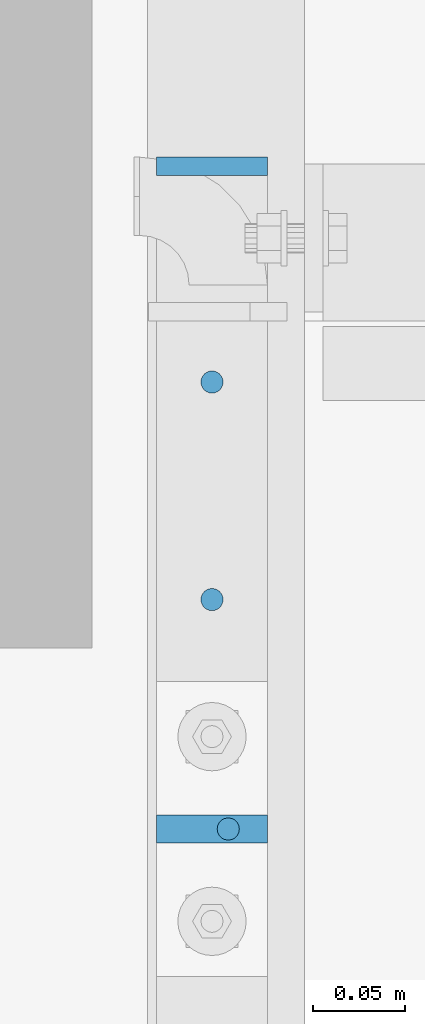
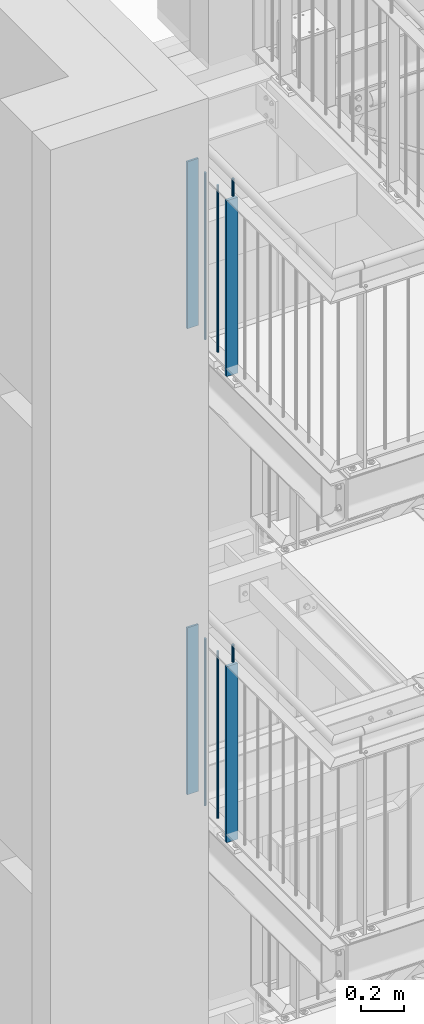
# One storey, part 14 of 831: 10 columns.
"""IFC2X3 building model written with IfcOpenShell, lengths in millimetres."""

from ifc_helpers import new_model, entity, si_unit, converted_unit, frame, origin, origin_with_axes, origin_2d, place, context, project, spatial, rectangle, circle, extrude, clip, halfspace, material, element, save


model = new_model("IFC2X3")

# Units and contexts
model_context = context("Model", 3, precision=1e-09, world=origin_with_axes())
ifc_project = project(units=[si_unit("LENGTHUNIT", "METRE", prefix="MILLI"), si_unit("AREAUNIT", "SQUARE_METRE"), si_unit("VOLUMEUNIT", "CUBIC_METRE"), converted_unit("PLANEANGLEUNIT", "DEGREE", entity("IfcPlaneAngleMeasure", 0.01745329), si_unit("PLANEANGLEUNIT", "RADIAN"), dimensions=[0, 0, 0, 0, 0, 0, 0])], contexts=[model_context])

# Site, building, storey
site_placement = place(None, origin_with_axes())
site = spatial("IfcSite", under=ifc_project, at=site_placement, Name="Site", CompositionType="ELEMENT")
building_placement = place(site_placement, origin_with_axes())
building = spatial("IfcBuilding", under=site, at=building_placement, Name="Struktur 1", CompositionType="ELEMENT")
storey_placement = place(building_placement, origin_with_axes())
storey = spatial("IfcBuildingStorey", under=building, at=storey_placement, Name="Default Storey", CompositionType="ELEMENT", Elevation=0.0)

# Columns
ifc_material = material(Name="S235JR")
column_1_placement = place(None, frame((3271.713402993, 5461.738971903, 16253.723292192), z_axis=(0.0, 0.0, 1.0), x_axis=(0.0, 1.0, 0.0)))
element("IfcColumn", 1, at=column_1_placement, inside=storey, material=ifc_material, Name="Railing_Post_Landing#14", ObjectType="Railing_Post_Landing#14", context=model_context, shape_type="Clipping", body=[
    clip(clip(extrude(rectangle(XDim=15.0, YDim=60.0, at=origin_2d()), origin(), (0.0, 0.0, -1.0), 1070.646584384), halfspace(frame((-5461.738971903, 3271.713402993, -1019.722292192), z_axis=(0.0, 0.0, 1.0), x_axis=(0.0, -1.0, 0.0)), True)), halfspace(frame((-5461.738971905, 3271.713402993, -30.924292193), z_axis=(0.0, 0.0, -1.0), x_axis=(0.0, 1.0, 0.0)), True)),
])
column_2_placement = place(None, frame((3280.513402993, 5461.738971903, 16341.285281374), z_axis=(0.0, 0.0, 1.0), x_axis=(1.0, 0.0, 0.0)))
element("IfcColumn", 2, at=column_2_placement, inside=storey, material=ifc_material, Name="Bar#14", ObjectType="Bar#14", context=model_context, shape_type="Clipping", body=[
    clip(clip(extrude(circle(Radius=6.0, at=origin_2d()), origin(), (0.0, 0.0, -1.0), 116.970562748), halfspace(frame((-3280.513402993, -5461.738971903, -8.486281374), z_axis=(0.0, 0.0, -1.0), x_axis=(-1.0, 0.0, 0.0)), True)), halfspace(frame((-3280.513402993, -5461.738971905, -108.484281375), z_axis=(0.0, 0.0, 1.0), x_axis=(1.0, 0.0, 0.0)), True)),
])
column_3_placement = place(None, frame((3271.713402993, 5461.738971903, 18873.723292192), z_axis=(0.0, 0.0, 1.0), x_axis=(0.0, 1.0, 0.0)))
element("IfcColumn", 3, at=column_3_placement, inside=storey, material=ifc_material, Name="Railing_Post_Landing#14", ObjectType="Railing_Post_Landing#14", context=model_context, shape_type="Clipping", body=[
    clip(clip(extrude(rectangle(XDim=15.0, YDim=60.0, at=origin_2d()), origin(), (0.0, 0.0, -1.0), 1070.646584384), halfspace(frame((-5461.738971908, 3271.713402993, -1019.722292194), z_axis=(0.0, 0.0, 1.0), x_axis=(0.0, -1.0, 0.0)), True)), halfspace(frame((-5461.738971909, 3271.713402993, -30.924292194), z_axis=(0.0, 0.0, -1.0), x_axis=(0.0, 1.0, 0.0)), True)),
])
column_4_placement = place(None, frame((3280.513402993, 5461.738971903, 18961.285281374), z_axis=(0.0, 0.0, 1.0), x_axis=(1.0, 0.0, 0.0)))
element("IfcColumn", 4, at=column_4_placement, inside=storey, material=ifc_material, Name="Bar#14", ObjectType="Bar#14", context=model_context, shape_type="Clipping", body=[
    clip(clip(extrude(circle(Radius=6.0, at=origin_2d()), origin(), (0.0, 0.0, -1.0), 116.970562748), halfspace(frame((-3280.513402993, -5461.738971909, -8.486281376), z_axis=(0.0, 0.0, -1.0), x_axis=(-1.0, 0.0, 0.0)), True)), halfspace(frame((-3280.513402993, -5461.738971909, -108.484281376), z_axis=(0.0, 0.0, 1.0), x_axis=(1.0, 0.0, 0.0)), True)),
])
column_5_placement = place(None, frame((3271.713402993, 5585.988971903, 18856.285281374), z_axis=(0.0, 0.0, -1.0), x_axis=(0.0, -1.0, 0.0)))
element("IfcColumn", 5, at=column_5_placement, inside=storey, material=ifc_material, Name="Railing_Picket_Landing#97", ObjectType="Railing_Picket_Landing#97", context=model_context, shape_type="Clipping", body=[
    clip(clip(extrude(circle(Radius=6.0, at=origin_2d()), origin(), (0.0, 0.0, 1.0), 965.770562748), halfspace(frame((5585.988971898, 3271.713402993, 13.486281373), z_axis=(0.0, 0.0, 1.0), x_axis=(0.0, 1.0, 0.0)), True)), halfspace(frame((5585.988971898, 3271.713402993, 952.284281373), z_axis=(0.0, 0.0, -1.0), x_axis=(0.0, -1.0, 0.0)), True)),
])
column_6_placement = place(None, frame((3271.713402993, 5703.786135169, 18856.285281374), z_axis=(0.0, 0.0, -1.0), x_axis=(0.0, -1.0, 0.0)))
element("IfcColumn", 6, at=column_6_placement, inside=storey, material=ifc_material, Name="Railing_Picket_Landing#96", ObjectType="Railing_Picket_Landing#96", context=model_context, shape_type="Clipping", body=[
    clip(clip(extrude(circle(Radius=6.0, at=origin_2d()), origin(), (0.0, 0.0, 1.0), 965.770562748), halfspace(frame((5703.786135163, 3271.713402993, 13.486281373), z_axis=(0.0, 0.0, 1.0), x_axis=(0.0, 1.0, 0.0)), True)), halfspace(frame((5703.786135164, 3271.713402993, 952.284281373), z_axis=(0.0, 0.0, -1.0), x_axis=(0.0, -1.0, 0.0)), True)),
])
column_7_placement = place(None, frame((3271.713402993, 5820.583298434, 17904.0), z_axis=(0.0, 0.0, -1.0), x_axis=(0.0, 1.0, 0.0)))
element("IfcColumn", 7, at=column_7_placement, inside=storey, material=ifc_material, Name="Railing_Kneerail_Landing#22", ObjectType="Railing_Kneerail_Landing#22", context=model_context, shape_type="SweptSolid", body=[
    extrude(rectangle(XDim=10.0, YDim=60.0, at=origin_2d()), origin(), (0.0, 0.0, -1.0), 938.8),
])
column_8_placement = place(None, frame((3271.713402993, 5585.988971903, 16236.285281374), z_axis=(0.0, 0.0, -1.0), x_axis=(0.0, -1.0, 0.0)))
element("IfcColumn", 8, at=column_8_placement, inside=storey, material=ifc_material, Name="Railing_Picket_Landing#97", ObjectType="Railing_Picket_Landing#97", context=model_context, shape_type="Clipping", body=[
    clip(clip(extrude(circle(Radius=6.0, at=origin_2d()), origin(), (0.0, 0.0, 1.0), 965.770562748), halfspace(frame((5585.988971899, 3271.713402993, 13.486281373), z_axis=(0.0, 0.0, 1.0), x_axis=(0.0, 1.0, 0.0)), True)), halfspace(frame((5585.988971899, 3271.713402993, 952.284281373), z_axis=(0.0, 0.0, -1.0), x_axis=(0.0, -1.0, 0.0)), True)),
])
column_9_placement = place(None, frame((3271.713402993, 5703.786135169, 16236.285281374), z_axis=(0.0, 0.0, -1.0), x_axis=(0.0, -1.0, 0.0)))
element("IfcColumn", 9, at=column_9_placement, inside=storey, material=ifc_material, Name="Railing_Picket_Landing#96", ObjectType="Railing_Picket_Landing#96", context=model_context, shape_type="Clipping", body=[
    clip(clip(extrude(circle(Radius=6.0, at=origin_2d()), origin(), (0.0, 0.0, 1.0), 965.770562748), halfspace(frame((5703.786135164, 3271.713402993, 13.486281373), z_axis=(0.0, 0.0, 1.0), x_axis=(0.0, 1.0, 0.0)), True)), halfspace(frame((5703.786135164, 3271.713402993, 952.284281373), z_axis=(0.0, 0.0, -1.0), x_axis=(0.0, -1.0, 0.0)), True)),
])
column_10_placement = place(None, frame((3271.713402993, 5820.583298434, 15284.0), z_axis=(0.0, 0.0, -1.0), x_axis=(0.0, 1.0, 0.0)))
element("IfcColumn", 10, at=column_10_placement, inside=storey, material=ifc_material, Name="Railing_Kneerail_Landing#22", ObjectType="Railing_Kneerail_Landing#22", context=model_context, shape_type="SweptSolid", body=[
    extrude(rectangle(XDim=10.0, YDim=60.0, at=origin_2d()), origin(), (0.0, 0.0, -1.0), 938.8),
])

save(model, "model.ifc")
